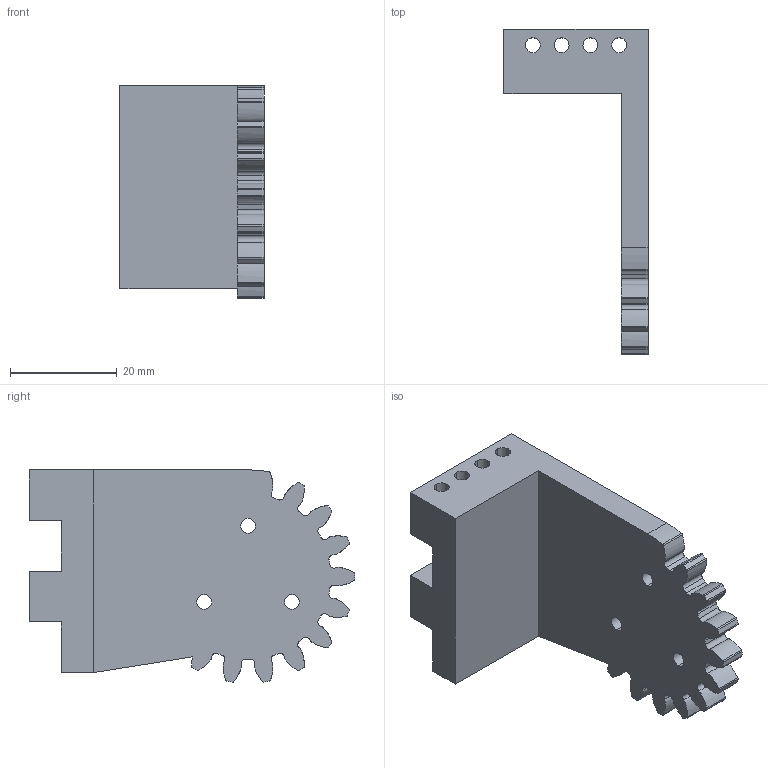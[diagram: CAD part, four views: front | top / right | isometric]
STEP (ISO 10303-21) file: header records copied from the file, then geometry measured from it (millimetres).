
FILE_DESCRIPTION (( 'STEP AP214' ), '1' );
FILE_NAME ('Gripper_template_DRIVE.STEP', '2020-08-29T12:56:28', ( '' ), ( '' ), 'SwSTEP 2.0', 'SolidWorks 2020', '' );
FILE_SCHEMA (( 'AUTOMOTIVE_DESIGN' ));
Length unit declared in the file: millimetre
Products named in the file (1): Gripper_template_DRIVE
Bounding box: 27 x 61 x 39.78 mm (x, y, z)
Volume: 16503.3 mm3; surface area: 8216.8 mm2
Topology: 1 solids, 1 shells, 130 faces, 383 edges, 255 vertices
Faces by surface type: cylinder 95, bspline 21, plane 14
Entity records: 5445 total; most frequent: CARTESIAN_POINT 1854, ORIENTED_EDGE 766, DIRECTION 751, EDGE_CURVE 383, AXIS2_PLACEMENT_3D 300, VERTEX_POINT 255, CIRCLE 190, EDGE_LOOP 152
